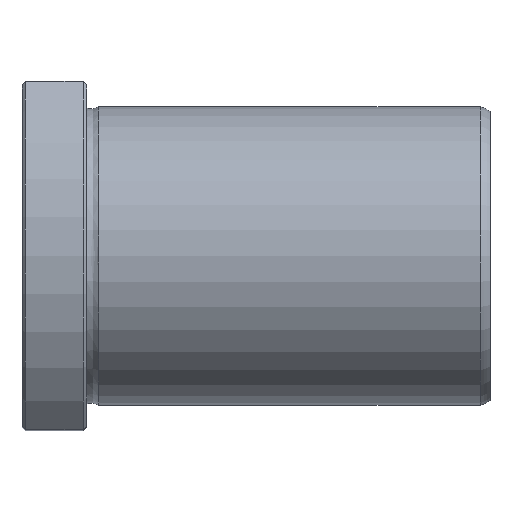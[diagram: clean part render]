
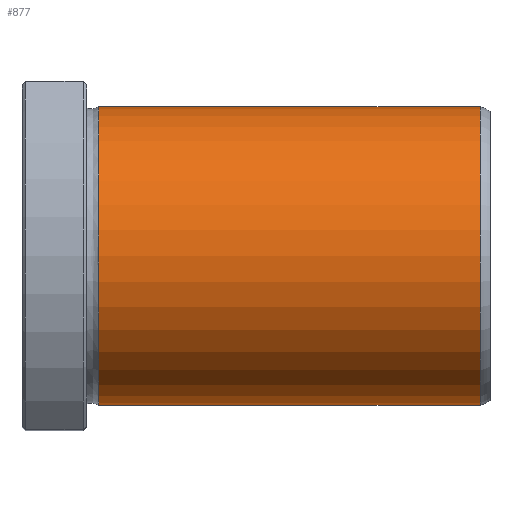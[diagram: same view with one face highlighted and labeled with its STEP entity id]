
A CAD part, top view. The second image highlights one B-rep face of the part: STEP entity #877.
In plain terms, the highlighted cylindrical face has radius 30 mm (diameter 60 mm), a full revolution.
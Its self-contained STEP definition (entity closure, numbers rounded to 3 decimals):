
#843=CARTESIAN_POINT('',(92.016,0.0,30.));
#844=VERTEX_POINT('',#843);
#845=CARTESIAN_POINT('',(92.016,0.0,0.0));
#846=DIRECTION('',(-1.0,0.0,0.0));
#847=DIRECTION('',(0.0,0.0,1.0));
#848=AXIS2_PLACEMENT_3D('',#845,#846,#847);
#849=CIRCLE('',#848,30.);
#850=EDGE_CURVE('',#844,#844,#849,.T.);
#858=CARTESIAN_POINT('',(53.708,0.0,0.0));
#859=DIRECTION('',(-1.0,0.0,0.0));
#860=DIRECTION('',(0.0,0.0,1.0));
#861=AXIS2_PLACEMENT_3D('',#858,#859,#860);
#862=CYLINDRICAL_SURFACE('',#861,30.);
#863=CARTESIAN_POINT('',(15.4,0.0,30.));
#864=VERTEX_POINT('',#863);
#865=CARTESIAN_POINT('',(15.4,0.0,0.0));
#866=DIRECTION('',(-1.0,0.0,0.0));
#867=DIRECTION('',(0.0,0.0,1.0));
#868=AXIS2_PLACEMENT_3D('',#865,#866,#867);
#869=CIRCLE('',#868,30.);
#870=EDGE_CURVE('',#864,#864,#869,.T.);
#871=ORIENTED_EDGE('',*,*,#870,.F.);
#872=EDGE_LOOP('',(#871));
#873=FACE_OUTER_BOUND('',#872,.T.);
#874=ORIENTED_EDGE('',*,*,#850,.T.);
#875=EDGE_LOOP('',(#874));
#876=FACE_BOUND('',#875,.T.);
#877=ADVANCED_FACE('',(#873,#876),#862,.T.);
